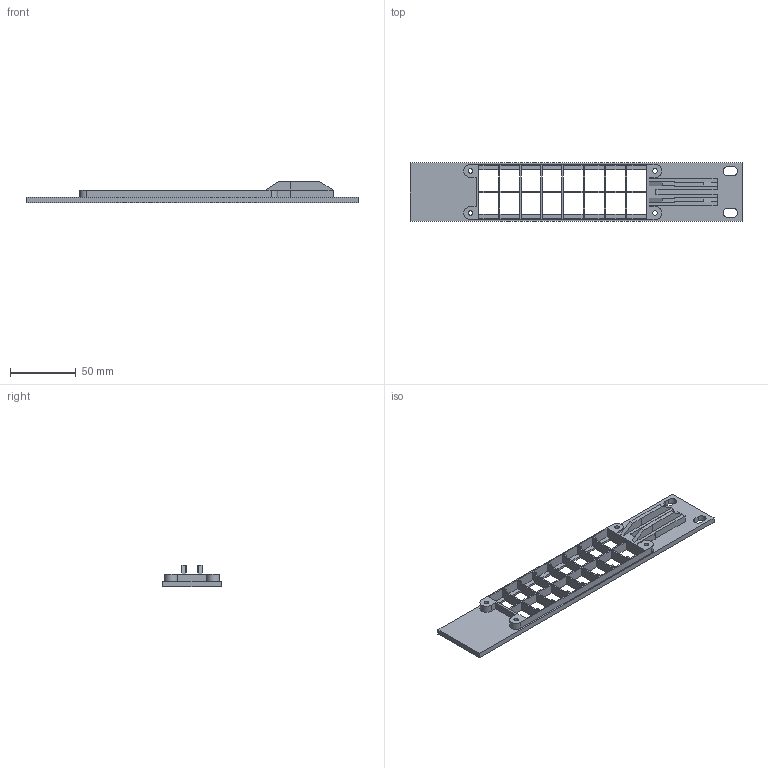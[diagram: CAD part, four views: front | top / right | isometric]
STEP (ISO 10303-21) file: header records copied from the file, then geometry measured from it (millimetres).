
FILE_DESCRIPTION(('Open CASCADE Model'),'2;1');
FILE_NAME('Open CASCADE Shape Model','2026-10-04T00:21:08',('Author'),( 'Open CASCADE'),'Open CASCADE STEP processor 7.8','Open CASCADE 7.8' ,'Unknown');
FILE_SCHEMA(('AUTOMOTIVE_DESIGN { 1 0 10303 214 1 1 1 1 }'));
Length unit declared in the file: millimetre
Products named in the file (1): Open CASCADE STEP translator 7.8 1
Bounding box: 252.93 x 44.45 x 16 mm (x, y, z)
Volume: 38042.4 mm3; surface area: 30946.8 mm2
Topology: 1 solids, 1 shells, 212 faces, 644 edges, 428 vertices
Faces by surface type: plane 194, cylinder 18
Full cylindrical faces by diameter (mm): 3.4 x4, 7.4 x4
Entity records: 15588 total; most frequent: CARTESIAN_POINT 2745, DIRECTION 2332, LINE 1820, VECTOR 1820, ORIENTED_EDGE 1288, PCURVE 1288, DEFINITIONAL_REPRESENTATION 1288, EDGE_CURVE 644
